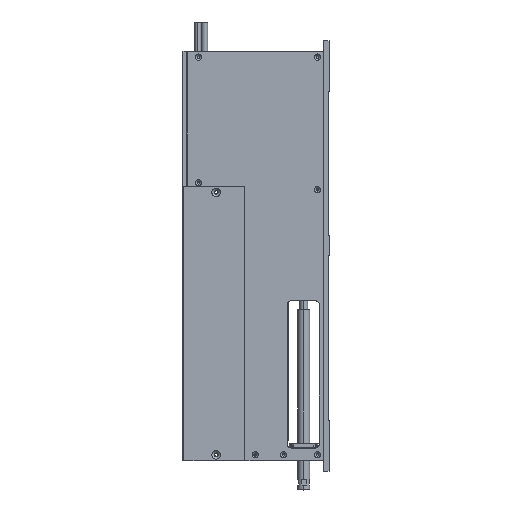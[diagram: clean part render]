
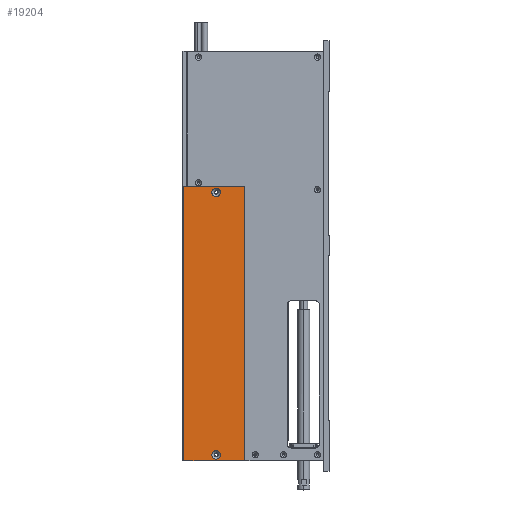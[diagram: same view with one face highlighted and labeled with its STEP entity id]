
A CAD part, top view. The second image highlights one B-rep face of the part: STEP entity #19204.
In plain terms, the highlighted planar face has unit normal (0, 0, 1) as drawn and (0, -1, 0) by its records, which use the part's own axes.
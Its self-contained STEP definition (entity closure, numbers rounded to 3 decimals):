
#5 = VECTOR ( 'NONE', #13288, 1000. ) ;
#1305 = FACE_OUTER_BOUND ( 'NONE', #11629, .T. ) ;
#1668 = PLANE ( 'NONE',  #6624 ) ;
#1726 = CARTESIAN_POINT ( 'NONE',  ( 17.1, 0., -5.2 ) ) ;
#2433 = VERTEX_POINT ( 'NONE', #11184 ) ;
#2444 = CARTESIAN_POINT ( 'NONE',  ( 0.5, 0., 0. ) ) ;
#2525 = CARTESIAN_POINT ( 'NONE',  ( 0.5, 0., -140.6 ) ) ;
#2813 = ORIENTED_EDGE ( 'NONE', *, *, #22637, .F. ) ;
#3198 = CARTESIAN_POINT ( 'NONE',  ( 31.75, 0., -140.6 ) ) ;
#3333 = CARTESIAN_POINT ( 'NONE',  ( 17.1, 0., -3. ) ) ;
#3814 = ORIENTED_EDGE ( 'NONE', *, *, #10663, .F. ) ;
#3946 = LINE ( 'NONE', #9973, #17021 ) ;
#3982 = VERTEX_POINT ( 'NONE', #20848 ) ;
#4044 = DIRECTION ( 'NONE',  ( 0., -1., 0. ) ) ;
#4305 = ORIENTED_EDGE ( 'NONE', *, *, #9562, .T. ) ;
#4709 = LINE ( 'NONE', #2525, #5 ) ;
#4992 = VECTOR ( 'NONE', #8953, 1000. ) ;
#5489 = DIRECTION ( 'NONE',  ( 0., -1., 0. ) ) ;
#6288 = CARTESIAN_POINT ( 'NONE',  ( 31.75, 0., 0. ) ) ;
#6418 = VERTEX_POINT ( 'NONE', #22983 ) ;
#6449 = ORIENTED_EDGE ( 'NONE', *, *, #9861, .T. ) ;
#6624 = AXIS2_PLACEMENT_3D ( 'NONE', #12429, #15935, #7062 ) ;
#6639 = VECTOR ( 'NONE', #18777, 1000. ) ;
#7062 = DIRECTION ( 'NONE',  ( 1., 0., 0. ) ) ;
#7094 = ORIENTED_EDGE ( 'NONE', *, *, #10354, .F. ) ;
#7241 = LINE ( 'NONE', #6288, #6639 ) ;
#8105 = LINE ( 'NONE', #3198, #4992 ) ;
#8383 = CARTESIAN_POINT ( 'NONE',  ( 31.75, 0., 0. ) ) ;
#8838 = AXIS2_PLACEMENT_3D ( 'NONE', #3333, #15867, #17580 ) ;
#8888 = EDGE_CURVE ( 'NONE', #19923, #6418, #10731, .T. ) ;
#8953 = DIRECTION ( 'NONE',  ( 0., 0., 1. ) ) ;
#9562 = EDGE_CURVE ( 'NONE', #2433, #3982, #3946, .T. ) ;
#9861 = EDGE_CURVE ( 'NONE', #3982, #16899, #8105, .T. ) ;
#9973 = CARTESIAN_POINT ( 'NONE',  ( 31.75, 0., -140.6 ) ) ;
#9988 = EDGE_CURVE ( 'NONE', #10196, #2433, #4709, .T. ) ;
#10090 = EDGE_CURVE ( 'NONE', #10196, #16899, #7241, .T. ) ;
#10158 = DIRECTION ( 'NONE',  ( 0., 0., -1. ) ) ;
#10196 = VERTEX_POINT ( 'NONE', #2444 ) ;
#10354 = EDGE_CURVE ( 'NONE', #18517, #22173, #15937, .T. ) ;
#10663 = EDGE_CURVE ( 'NONE', #6418, #19923, #17505, .T. ) ;
#10731 = CIRCLE ( 'NONE', #10804, 2.2 ) ;
#10804 = AXIS2_PLACEMENT_3D ( 'NONE', #16242, #5489, #17965 ) ;
#10841 = ORIENTED_EDGE ( 'NONE', *, *, #9988, .T. ) ;
#10907 = FACE_BOUND ( 'NONE', #14145, .T. ) ;
#11109 = CARTESIAN_POINT ( 'NONE',  ( 17.1, 0., -137.6 ) ) ;
#11184 = CARTESIAN_POINT ( 'NONE',  ( 0.5, 0., -140.6 ) ) ;
#11488 = CIRCLE ( 'NONE', #18271, 2.2 ) ;
#11629 = EDGE_LOOP ( 'NONE', ( #16454, #10841, #4305, #6449 ) ) ;
#12429 = CARTESIAN_POINT ( 'NONE',  ( 31.75, 0., -140.6 ) ) ;
#12800 = ORIENTED_EDGE ( 'NONE', *, *, #8888, .F. ) ;
#13250 = EDGE_LOOP ( 'NONE', ( #3814, #12800 ) ) ;
#13288 = DIRECTION ( 'NONE',  ( 0., 0., -1. ) ) ;
#14145 = EDGE_LOOP ( 'NONE', ( #7094, #2813 ) ) ;
#14984 = AXIS2_PLACEMENT_3D ( 'NONE', #11109, #16621, #20128 ) ;
#15438 = CARTESIAN_POINT ( 'NONE',  ( 17.1, 0., -135.4 ) ) ;
#15614 = FACE_BOUND ( 'NONE', #13250, .T. ) ;
#15867 = DIRECTION ( 'NONE',  ( 0., -1., 0. ) ) ;
#15935 = DIRECTION ( 'NONE',  ( 0., -1., 0. ) ) ;
#15937 = CIRCLE ( 'NONE', #8838, 2.2 ) ;
#16022 = CARTESIAN_POINT ( 'NONE',  ( 17.1, 0., -0.8 ) ) ;
#16076 = DIRECTION ( 'NONE',  ( 1., 0., 0. ) ) ;
#16242 = CARTESIAN_POINT ( 'NONE',  ( 17.1, 0., -137.6 ) ) ;
#16454 = ORIENTED_EDGE ( 'NONE', *, *, #10090, .F. ) ;
#16621 = DIRECTION ( 'NONE',  ( 0., -1., 0. ) ) ;
#16899 = VERTEX_POINT ( 'NONE', #8383 ) ;
#17021 = VECTOR ( 'NONE', #16076, 1000. ) ;
#17505 = CIRCLE ( 'NONE', #14984, 2.2 ) ;
#17580 = DIRECTION ( 'NONE',  ( 0., 0., -1. ) ) ;
#17965 = DIRECTION ( 'NONE',  ( 0., 0., -1. ) ) ;
#18271 = AXIS2_PLACEMENT_3D ( 'NONE', #21825, #4044, #10158 ) ;
#18517 = VERTEX_POINT ( 'NONE', #1726 ) ;
#18777 = DIRECTION ( 'NONE',  ( 1., 0., 0. ) ) ;
#19204 = ADVANCED_FACE ( 'NONE', ( #15614, #10907, #1305 ), #1668, .T. ) ;
#19923 = VERTEX_POINT ( 'NONE', #15438 ) ;
#20128 = DIRECTION ( 'NONE',  ( 0., 0., -1. ) ) ;
#20848 = CARTESIAN_POINT ( 'NONE',  ( 31.75, 0., -140.6 ) ) ;
#21825 = CARTESIAN_POINT ( 'NONE',  ( 17.1, 0., -3. ) ) ;
#22173 = VERTEX_POINT ( 'NONE', #16022 ) ;
#22637 = EDGE_CURVE ( 'NONE', #22173, #18517, #11488, .T. ) ;
#22983 = CARTESIAN_POINT ( 'NONE',  ( 17.1, 0., -139.8 ) ) ;
